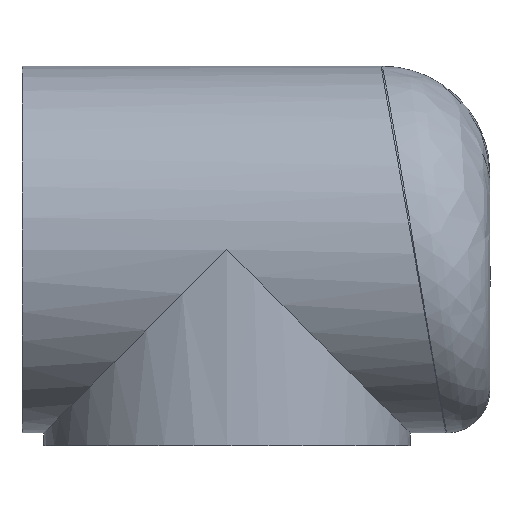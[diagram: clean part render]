
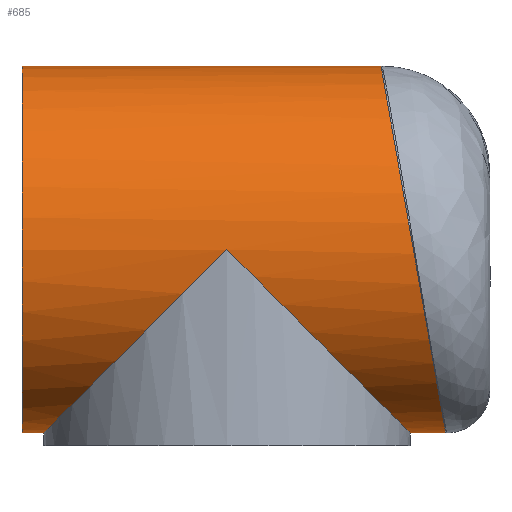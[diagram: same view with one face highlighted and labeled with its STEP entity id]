
A CAD part, left-side view. The second image highlights one B-rep face of the part: STEP entity #685.
In plain terms, the highlighted cylindrical face has radius 42.5 mm (diameter 85 mm), a partial arc.
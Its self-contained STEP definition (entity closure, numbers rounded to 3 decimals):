
#55 = DIRECTION ( 'NONE',  ( 0., 0., 1. ) ) ;
#113 = CARTESIAN_POINT ( 'NONE',  ( 0., -42.5, 0. ) ) ;
#118 = ORIENTED_EDGE ( 'NONE', *, *, #859, .F. ) ;
#133 = CARTESIAN_POINT ( 'NONE',  ( -42.5, 0., -47.5 ) ) ;
#142 = CARTESIAN_POINT ( 'NONE',  ( 24.896, -42.5, 24.896 ) ) ;
#149 = LINE ( 'NONE', #694, #701 ) ;
#189 = VERTEX_POINT ( 'NONE', #357 ) ;
#204 = ORIENTED_EDGE ( 'NONE', *, *, #874, .T. ) ;
#211 = ORIENTED_EDGE ( 'NONE', *, *, #639, .F. ) ;
#221 = CARTESIAN_POINT ( 'NONE',  ( 0., 0., 61. ) ) ;
#232 = CARTESIAN_POINT ( 'NONE',  ( 42.5, 0., 42.5 ) ) ;
#235 = CARTESIAN_POINT ( 'NONE',  ( 0., -42.5, 0. ) ) ;
#241 = DIRECTION ( 'NONE',  ( 0., 0., -1. ) ) ;
#242 = AXIS2_PLACEMENT_3D ( 'NONE', #1062, #55, #425 ) ;
#270 = CARTESIAN_POINT ( 'NONE',  ( 42.5, -24.896, -42.5 ) ) ;
#280 = LINE ( 'NONE', #1102, #1004 ) ;
#333 = DIRECTION ( 'NONE',  ( 0., 0., -1. ) ) ;
#344 = DIRECTION ( 'NONE',  ( 0., 0., -1. ) ) ;
#357 = CARTESIAN_POINT ( 'NONE',  ( 42.5, 0., -47.5 ) ) ;
#370 = AXIS2_PLACEMENT_3D ( 'NONE', #221, #241, #785 ) ;
#425 = DIRECTION ( 'NONE',  ( 1., 0., 0. ) ) ;
#438 = EDGE_CURVE ( 'NONE', #1118, #1039, #963, .T. ) ;
#458 = DIRECTION ( 'NONE',  ( 0., 0., -1. ) ) ;
#475 = EDGE_LOOP ( 'NONE', ( #118, #838, #580, #204, #539, #898, #211 ) ) ;
#497 = VERTEX_POINT ( 'NONE', #820 ) ;
#506 = CYLINDRICAL_SURFACE ( 'NONE', #370, 42.5 ) ;
#512 = CIRCLE ( 'NONE', #242, 42.5 ) ;
#513 = CARTESIAN_POINT ( 'NONE',  ( 42.5, -24.896, 42.5 ) ) ;
#539 = ORIENTED_EDGE ( 'NONE', *, *, #946, .F. ) ;
#548 =( BOUNDED_CURVE ( )  B_SPLINE_CURVE ( 3, ( #232, #513, #142, #235 ),
 .UNSPECIFIED., .F., .T. ) 
 B_SPLINE_CURVE_WITH_KNOTS ( ( 4, 4 ),
 ( 0., 1.571 ),
 .UNSPECIFIED. ) 
 CURVE ( )  GEOMETRIC_REPRESENTATION_ITEM ( )  RATIONAL_B_SPLINE_CURVE ( ( 1., 0.805, 0.805, 1. ) ) 
 REPRESENTATION_ITEM ( '' )  );
#553 = CARTESIAN_POINT ( 'NONE',  ( 42.5, 0., -42.5 ) ) ;
#578 = CARTESIAN_POINT ( 'NONE',  ( 42.5, -85., 50.724 ) ) ;
#580 = ORIENTED_EDGE ( 'NONE', *, *, #1016, .T. ) ;
#630 = CARTESIAN_POINT ( 'NONE',  ( 42.5, 0., 61. ) ) ;
#639 = EDGE_CURVE ( 'NONE', #1044, #1118, #548, .T. ) ;
#647 = CARTESIAN_POINT ( 'NONE',  ( 42.5, 0., 42.5 ) ) ;
#665 = CARTESIAN_POINT ( 'NONE',  ( -42.5, 0., 35.736 ) ) ;
#672 = CARTESIAN_POINT ( 'NONE',  ( -42.5, -85., 35.736 ) ) ;
#685 = ADVANCED_FACE ( 'NONE', ( #871 ), #506, .T. ) ;
#694 = CARTESIAN_POINT ( 'NONE',  ( 42.5, 0., 61. ) ) ;
#701 = VECTOR ( 'NONE', #333, 1000. ) ;
#727 = CARTESIAN_POINT ( 'NONE',  ( 24.896, -42.5, -24.896 ) ) ;
#762 = CARTESIAN_POINT ( 'NONE',  ( 42.5, 0., 50.724 ) ) ;
#775 =( BOUNDED_CURVE ( )  B_SPLINE_CURVE ( 3, ( #665, #672, #578, #762 ),
 .UNSPECIFIED., .F., .T. ) 
 B_SPLINE_CURVE_WITH_KNOTS ( ( 4, 4 ),
 ( 0., 3.142 ),
 .UNSPECIFIED. ) 
 CURVE ( )  GEOMETRIC_REPRESENTATION_ITEM ( )  RATIONAL_B_SPLINE_CURVE ( ( 1., 0.333, 0.333, 1. ) ) 
 REPRESENTATION_ITEM ( '' )  );
#785 = DIRECTION ( 'NONE',  ( -1., 0., 0. ) ) ;
#816 = VERTEX_POINT ( 'NONE', #133 ) ;
#820 = CARTESIAN_POINT ( 'NONE',  ( 42.5, 0., 50.724 ) ) ;
#838 = ORIENTED_EDGE ( 'NONE', *, *, #1150, .F. ) ;
#859 = EDGE_CURVE ( 'NONE', #497, #1044, #149, .T. ) ;
#868 = VECTOR ( 'NONE', #344, 1000. ) ;
#871 = FACE_OUTER_BOUND ( 'NONE', #475, .T. ) ;
#874 = EDGE_CURVE ( 'NONE', #816, #189, #512, .T. ) ;
#898 = ORIENTED_EDGE ( 'NONE', *, *, #438, .F. ) ;
#913 = CARTESIAN_POINT ( 'NONE',  ( 42.5, 0., -42.5 ) ) ;
#928 = VERTEX_POINT ( 'NONE', #1037 ) ;
#946 = EDGE_CURVE ( 'NONE', #1039, #189, #1043, .T. ) ;
#963 =( BOUNDED_CURVE ( )  B_SPLINE_CURVE ( 3, ( #1097, #727, #270, #913 ),
 .UNSPECIFIED., .F., .T. ) 
 B_SPLINE_CURVE_WITH_KNOTS ( ( 4, 4 ),
 ( 4.712, 6.283 ),
 .UNSPECIFIED. ) 
 CURVE ( )  GEOMETRIC_REPRESENTATION_ITEM ( )  RATIONAL_B_SPLINE_CURVE ( ( 1., 0.805, 0.805, 1. ) ) 
 REPRESENTATION_ITEM ( '' )  );
#1004 = VECTOR ( 'NONE', #458, 1000. ) ;
#1016 = EDGE_CURVE ( 'NONE', #928, #816, #280, .T. ) ;
#1037 = CARTESIAN_POINT ( 'NONE',  ( -42.5, 0., 35.736 ) ) ;
#1039 = VERTEX_POINT ( 'NONE', #553 ) ;
#1043 = LINE ( 'NONE', #630, #868 ) ;
#1044 = VERTEX_POINT ( 'NONE', #647 ) ;
#1062 = CARTESIAN_POINT ( 'NONE',  ( 0., 0., -47.5 ) ) ;
#1097 = CARTESIAN_POINT ( 'NONE',  ( 0., -42.5, 0. ) ) ;
#1102 = CARTESIAN_POINT ( 'NONE',  ( -42.5, 0., 61. ) ) ;
#1118 = VERTEX_POINT ( 'NONE', #113 ) ;
#1150 = EDGE_CURVE ( 'NONE', #928, #497, #775, .T. ) ;
